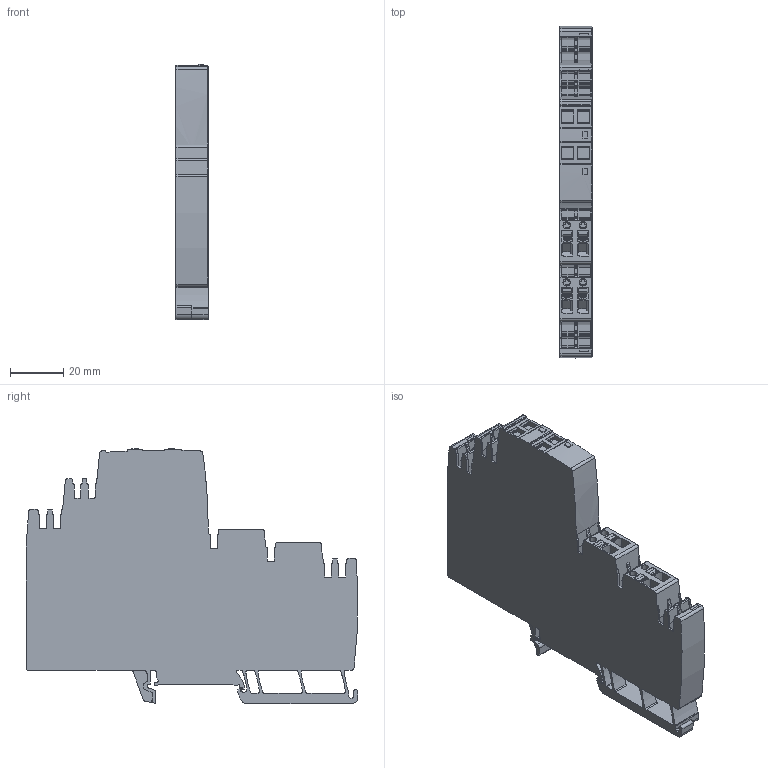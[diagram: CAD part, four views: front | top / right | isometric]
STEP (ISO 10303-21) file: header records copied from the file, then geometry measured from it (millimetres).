
FILE_DESCRIPTION(('CATIA V5R24 STEP','CAx-IF Rec.Pracs.--- Model Styling and Organization---1.2---2011-12-15'),'2;1');
FILE_NAME('\\SRVDE107\Germany\WMC\1_WMC_Input\Step_BU_PA\2081900000.stp','2017-08-31T09:19:33+00:00',('Weidmueller Interface'),('WI'),'CATIA Version 5-6 Release 2014 SP4','CATIA V5 STEP AP214','none');
FILE_SCHEMA(('AUTOMOTIVE_DESIGN { 1 0 10303 214 1 1 1 1 }'));
Length unit declared in the file: millimetre
Products named in the file (1): 2081900000
Bounding box: 12.1 x 125.07 x 96.1 mm (x, y, z)
Volume: 94459.3 mm3; surface area: 30475.4 mm2
Topology: 10 solids, 10 shells, 1408 faces, 4276 edges, 2923 vertices
Faces by surface type: plane 767, cylinder 584, extrusion 57
Entity records: 49168 total; most frequent: CARTESIAN_POINT 10822, ORIENTED_EDGE 8552, DIRECTION 6211, EDGE_CURVE 4264, VERTEX_POINT 2911, VECTOR 2860, LINE 2803, AXIS2_PLACEMENT_3D 2268
